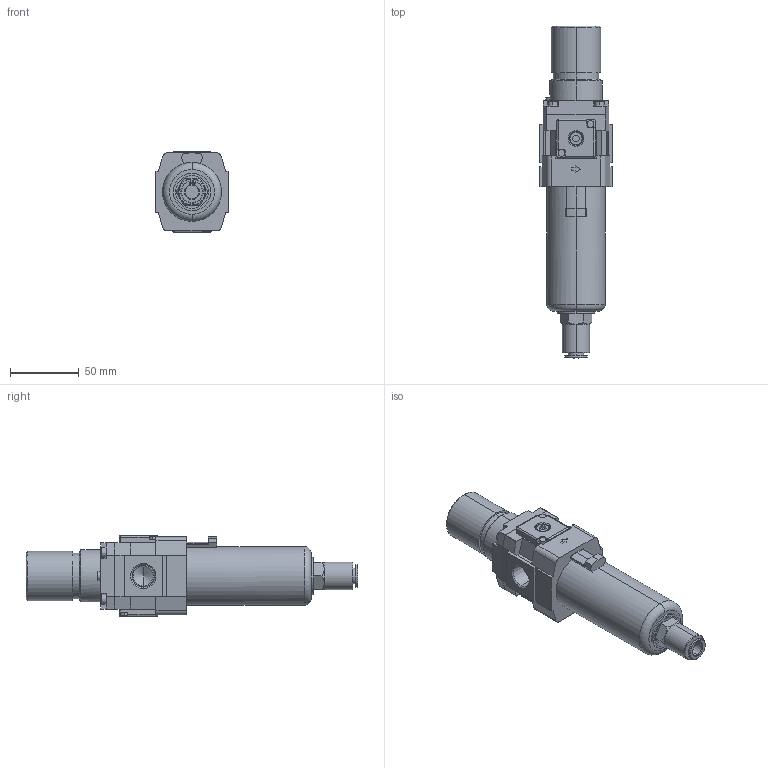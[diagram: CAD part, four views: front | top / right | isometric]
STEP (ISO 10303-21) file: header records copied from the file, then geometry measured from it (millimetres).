
FILE_DESCRIPTION (( 'STEP AP214' ), '1' );
FILE_NAME ('AW30-F03D-B.step.step', '2023-01-09T13:29:41', ( '' ), ( '' ), 'SwSTEP 2.0', 'SolidWorks 2022', '' );
FILE_SCHEMA (( 'AUTOMOTIVE_DESIGN' ));
Length unit declared in the file: millimetre
Products named in the file (7): AW30-F03D-B.step_AW3020A Plug_01; AW30-F03D-B.step_AW_Drain_30C; AW30-F03D-B.step_AW_Bowl_30C; AW30-F03D-B.step_AW3020A Body_30; AW30-F03D-B.step_AW3020A Gauge_30; AW30-F03D-B.step; AW30-F03D-B.step_AW3020A Gauge_20
Assembly tree (6 placements, depth 2):
  AW30-F03D-B.step
    AW30-F03D-B.step_AW3020A Body_30
    AW30-F03D-B.step_AW_Bowl_30C
    AW30-F03D-B.step_AW3020A Gauge_20
    AW30-F03D-B.step_AW3020A Gauge_30
    AW30-F03D-B.step_AW3020A Plug_01
    AW30-F03D-B.step_AW_Drain_30C
Bounding box: 53 x 242.3 x 58.9 mm (x, y, z)
Volume: 349534.4 mm3; surface area: 51076.2 mm2
Topology: 6 solids, 6 shells, 335 faces, 827 edges, 524 vertices
Faces by surface type: plane 184, cylinder 74, cone 44, bspline 21, torus 8, sphere 4
Entity records: 11942 total; most frequent: CARTESIAN_POINT 3048, ORIENTED_EDGE 1638, DIRECTION 1631, EDGE_CURVE 819, LINE 545, VECTOR 545, AXIS2_PLACEMENT_3D 543, VERTEX_POINT 524
